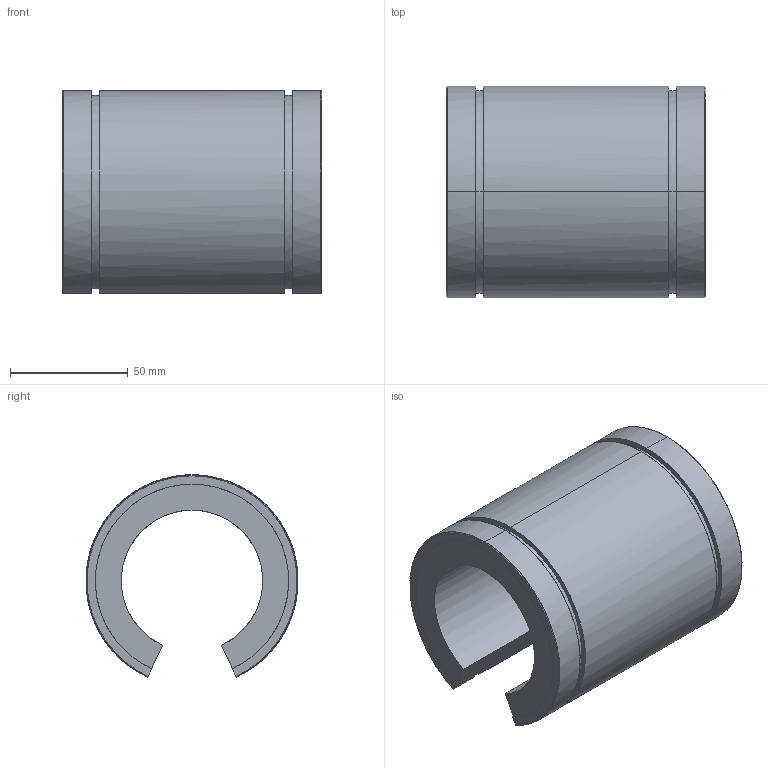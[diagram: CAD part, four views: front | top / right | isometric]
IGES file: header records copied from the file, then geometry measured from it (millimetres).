
Global section: file name: No Iges File Name specified; native system: AutoDesk Inventor R10; preprocessor: AutoDesk Inventor Iges Exporter R10; author: No Author specified; organization: No Organization specified; date: 20101208.113428; units: millimetre
Bounding box: 110 x 89.88 x 85.87 mm (x, y, z)
Surface area: 55835 mm2 (no closed solid volume)
Topology: 0 solids, 0 shells, 30 faces, 252 edges, 252 vertices
Faces by surface type: bspline 30
